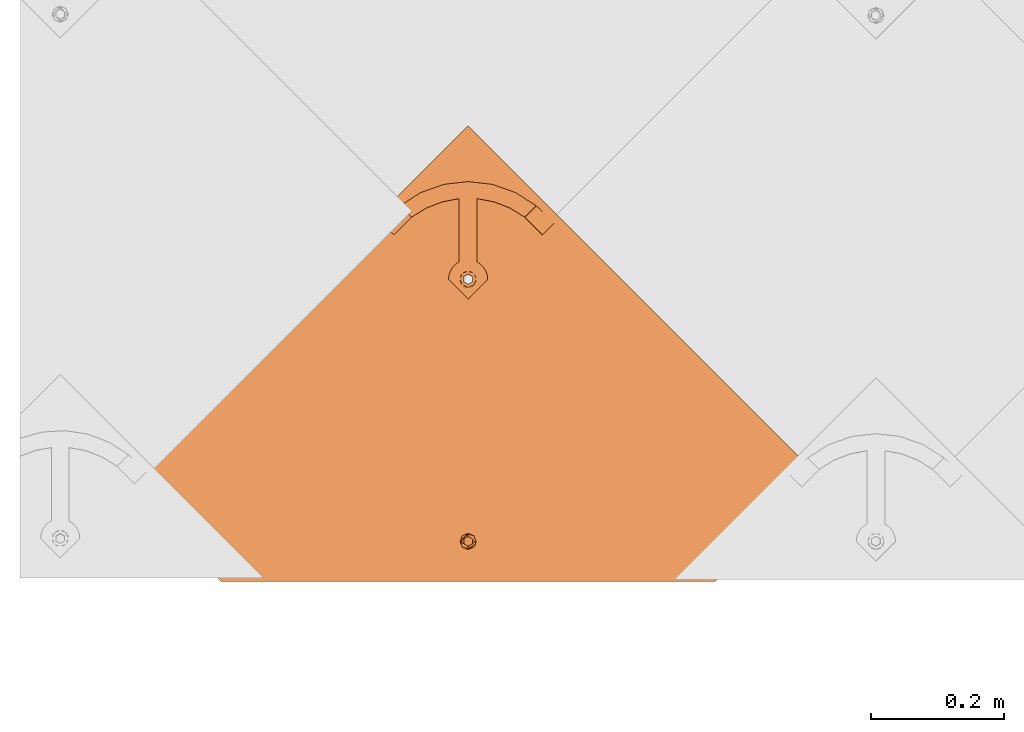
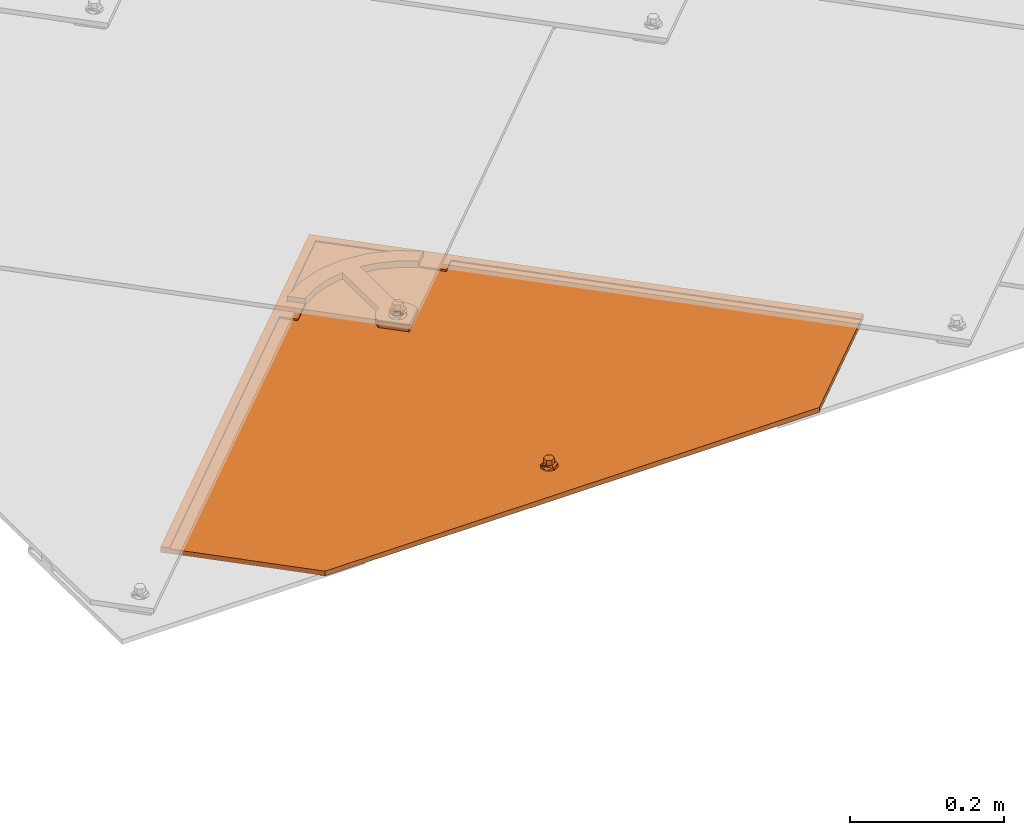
# One storey, part 69 of 133: 1 proxy.
"""IFC2X3 building model written with IfcOpenShell, lengths in millimetres."""

from ifc_helpers import new_model, entity, si_unit, converted_unit, derived_unit, direction, frame, origin, place, context, subcontext, project, spatial, faceted_brep, source, transform, mapped, material, material_list, type_object, type_shapes, element, save


model = new_model("IFC2X3")

# Units and contexts
model_context = context("Model", 3, precision=0.01, world=origin(), true_north=direction((6.12303176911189e-17, 1.0)))
body_context = subcontext(model_context, "Body", "Model", "MODEL_VIEW")
ifc_project = project(units=[si_unit("LENGTHUNIT", "METRE", prefix="MILLI"), si_unit("AREAUNIT", "SQUARE_METRE"), si_unit("VOLUMEUNIT", "CUBIC_METRE"), converted_unit("PLANEANGLEUNIT", "DEGREE", entity("IfcRatioMeasure", 0.0174532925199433), si_unit("PLANEANGLEUNIT", "RADIAN"), dimensions=[0, 0, 0, 0, 0, 0, 0]), si_unit("MASSUNIT", "GRAM", prefix="KILO"), derived_unit("MASSDENSITYUNIT", [(si_unit("MASSUNIT", "GRAM", prefix="KILO"), 1), (si_unit("LENGTHUNIT", "METRE"), -3)]), si_unit("TIMEUNIT", "SECOND"), si_unit("FREQUENCYUNIT", "HERTZ"), si_unit("THERMODYNAMICTEMPERATUREUNIT", "DEGREE_CELSIUS"), derived_unit("THERMALTRANSMITTANCEUNIT", [(si_unit("MASSUNIT", "GRAM", prefix="KILO"), 1), (si_unit("THERMODYNAMICTEMPERATUREUNIT", "KELVIN"), -1), (si_unit("TIMEUNIT", "SECOND"), -3)]), derived_unit("VOLUMETRICFLOWRATEUNIT", [(si_unit("LENGTHUNIT", "METRE"), 3), (si_unit("TIMEUNIT", "SECOND"), -1)]), si_unit("ELECTRICCURRENTUNIT", "AMPERE"), si_unit("ELECTRICVOLTAGEUNIT", "VOLT"), si_unit("POWERUNIT", "WATT"), si_unit("FORCEUNIT", "NEWTON", prefix="KILO"), si_unit("ILLUMINANCEUNIT", "LUX"), si_unit("LUMINOUSFLUXUNIT", "LUMEN"), si_unit("LUMINOUSINTENSITYUNIT", "CANDELA"), derived_unit("USERDEFINED", [(si_unit("MASSUNIT", "GRAM", prefix="KILO"), -1), (si_unit("LENGTHUNIT", "METRE"), -2), (si_unit("TIMEUNIT", "SECOND"), 3), (si_unit("LUMINOUSFLUXUNIT", "LUMEN"), 1)]), derived_unit("LINEARVELOCITYUNIT", [(si_unit("LENGTHUNIT", "METRE"), 1), (si_unit("TIMEUNIT", "SECOND"), -1)]), si_unit("PRESSUREUNIT", "PASCAL"), derived_unit("USERDEFINED", [(si_unit("LENGTHUNIT", "METRE"), -2), (si_unit("MASSUNIT", "GRAM", prefix="KILO"), 1), (si_unit("TIMEUNIT", "SECOND"), -2)])], contexts=[model_context])

# Site, building, storey
site_placement = place(None, origin())
site = spatial("IfcSite", under=ifc_project, at=site_placement, Name="Default", CompositionType="ELEMENT")
building_placement = place(site_placement, origin())
building = spatial("IfcBuilding", under=site, at=building_placement, CompositionType="ELEMENT")
storey_placement = place(building_placement, origin())
storey = spatial("IfcBuildingStorey", under=building, at=storey_placement, Name="Level 1", CompositionType="ELEMENT", Elevation=0.0)

# Proxy
ifc_material_1 = material(Name="Rubber - Sunstyle - Black")
ifc_material_2 = material(Name="Glass - Sunstyle - Tainted Black")
ifc_material_list_1 = material_list([ifc_material_1, ifc_material_2])
ifc_material_list_2 = material_list([ifc_material_1, ifc_material_2])
building_element_proxy_type = type_object("IfcBuildingElementProxyType", Name="Shingle Bottom - Black", PredefinedType="NOTDEFINED", material=ifc_material_list_2)
shared_shape = source(origin(), body_context, "Body", "Brep", [
    faceted_brep([(0.0, -1.79273515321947, -4.01619789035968), (-5.7742028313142, -5.12600528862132, -3.96037390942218), (-5.77420283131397, -4.75769619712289, 18.0314954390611), (0.0, -1.42442606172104, 17.9756714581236), (-5.77420283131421, -11.792545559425, -3.84872594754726), (-5.77420283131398, -11.4242364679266, 18.143143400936), (0.0, -15.1258156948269, -3.79290196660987), (0.0, -14.7575066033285, 18.1989673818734), (5.77420283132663, -11.7925455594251, -3.84872594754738), (5.77420283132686, -11.4242364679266, 18.1431434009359), (5.77420283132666, -5.12600528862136, -3.96037390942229), (5.77420283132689, -4.75769619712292, 18.031495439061), (-8.60370416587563, -16.6934641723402, 18.2313898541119), (0.0, -20.2567354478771, 18.2910657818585), (-12.1674751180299, -8.09096633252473, 18.0873194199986), (-8.60370416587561, 0.511531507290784, 17.9432489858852), (0.0, 4.07480278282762, 17.8835730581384), (8.60370416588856, 0.511531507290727, 17.9432489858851), (12.1674751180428, -8.09096633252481, 18.0873194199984), (8.60370416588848, -16.6934641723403, 18.2313898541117), (-11.4302228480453, -6.71737066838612, 20.4858706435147), (-9.77051349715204, -8.02009729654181, 22.3189355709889), (0.0, -0.706876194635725, 22.9603444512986), (0.0, 0.533621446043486, 22.3799978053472), (0.0, 2.69117229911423, 21.3706227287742), (-6.32324569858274, -4.35709193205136, 23.021476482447), (-6.32324569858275, -11.6575234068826, 23.1437405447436), (0.0, -18.7571148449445, 21.7298281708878), (0.0, -15.3077391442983, 23.2048725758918), (10.9851748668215, -11.808022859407, 20.3827540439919), (10.123850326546, -8.02413622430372, 22.0777687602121), (6.32324569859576, -4.3570919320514, 23.0214764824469), (6.32324569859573, -11.6575234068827, 23.1437405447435), (-6.32324569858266, -11.5234949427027, 31.146628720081), (0.0, -15.1737106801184, 31.2077607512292), (0.0, -7.8732792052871, 31.0854966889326), (-6.32324569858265, -4.22306346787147, 31.0243646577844), (6.32324569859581, -11.5234949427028, 31.1466287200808), (6.32324569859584, -4.22306346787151, 31.0243646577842), (0.0, -0.57284773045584, 30.963232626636), (0.0, -8.45927542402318, -3.90454992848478)], [[[0, 1, 2, 3]], [[1, 4, 5, 2]], [[4, 6, 7, 5]], [[6, 8, 9, 7]], [[8, 10, 11, 9]], [[10, 0, 3, 11]], [[12, 7, 13]], [[7, 12, 5]], [[14, 5, 12]], [[5, 14, 2]], [[15, 2, 14]], [[3, 2, 15]], [[15, 16, 3]], [[16, 17, 3]], [[11, 3, 17]], [[11, 17, 18]], [[9, 11, 18]], [[18, 19, 9]], [[7, 9, 19]], [[19, 13, 7]], [[15, 20, 16]], [[21, 22, 23, 24]], [[22, 21, 25]], [[20, 14, 12]], [[15, 14, 20]], [[25, 21, 26]], [[20, 24, 16]], [[12, 13, 27]], [[12, 27, 20]], [[21, 28, 26]], [[21, 27, 28]], [[20, 21, 24]], [[20, 27, 21]], [[19, 29, 13]], [[30, 23, 31]], [[30, 28, 27]], [[24, 23, 30]], [[29, 27, 13]], [[19, 18, 29]], [[29, 30, 27]], [[29, 17, 24]], [[24, 17, 16]], [[31, 32, 30]], [[23, 22, 31]], [[28, 30, 32]], [[29, 24, 30]], [[29, 18, 17]], [[33, 34, 35]], [[35, 36, 33]], [[34, 37, 35]], [[38, 35, 37]], [[35, 38, 39]], [[35, 39, 36]], [[40, 6, 4]], [[4, 1, 40]], [[1, 0, 40]], [[40, 8, 6]], [[0, 10, 40]], [[8, 40, 10]], [[22, 25, 36, 39]], [[25, 26, 33, 36]], [[26, 28, 34, 33]], [[28, 32, 37, 34]], [[32, 31, 38, 37]], [[31, 22, 39, 38]]]),
    faceted_brep([(0.0, 372.824876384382, 20.3195200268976), (0.0, 377.324245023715, 20.2441667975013), (-8.60370416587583, 376.388147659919, 20.2598440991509), (8.60370416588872, 376.388147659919, 20.2598440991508), (6.64022859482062, 381.157445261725, 20.1799702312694), (12.1674751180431, 384.990645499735, 20.1157736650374), (6.64022859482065, 388.823845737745, 20.0515770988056), (8.6037041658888, 393.59314333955, 19.9717032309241), (0.0, 392.657045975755, 19.9873805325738), (0.0, 397.156414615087, 19.9120273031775), (-8.60370416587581, 393.59314333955, 19.9717032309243), (-6.64022859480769, 388.823845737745, 20.0515770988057), (-12.1674751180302, 384.990645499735, 20.1157736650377), (-6.6402285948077, 381.157445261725, 20.1799702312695), (-6.6402282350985, 388.555922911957, 4.05382046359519), (0.0, 392.389122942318, 3.98962390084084), (-6.64022823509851, 380.889522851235, 4.18221358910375), (0.0, 377.056322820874, 4.24641015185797), (6.64022823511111, 380.889522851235, 4.18221358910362), (6.64022823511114, 388.555922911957, 4.05382046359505), (-8.603704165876, 376.12022504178, 4.26208746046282), (0.0, 372.556953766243, 4.32176338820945), (-12.1674751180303, 384.722722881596, 4.11801702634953), (-8.60370416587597, 393.325220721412, 3.97394659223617), (0.0, 396.888491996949, 3.91427066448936), (8.60370416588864, 393.325220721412, 3.97394659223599), (12.1674751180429, 384.722722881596, 4.11801702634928), (8.60370416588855, 376.12022504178, 4.26208746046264)], [[[0, 1, 2]], [[1, 0, 3]], [[3, 4, 1]], [[4, 3, 5]], [[6, 4, 5]], [[5, 7, 6]], [[7, 8, 6]], [[8, 7, 9]], [[8, 9, 10]], [[10, 11, 8]], [[12, 11, 10]], [[2, 13, 12]], [[12, 13, 11]], [[13, 2, 1]], [[8, 11, 14, 15]], [[11, 13, 16, 14]], [[13, 1, 17, 16]], [[1, 4, 18, 17]], [[4, 6, 19, 18]], [[6, 8, 15, 19]], [[20, 17, 21]], [[17, 20, 16]], [[22, 16, 20]], [[14, 16, 22]], [[23, 14, 22]], [[15, 14, 23]], [[23, 24, 15]], [[24, 25, 15]], [[19, 15, 25]], [[19, 25, 26]], [[26, 18, 19]], [[26, 27, 18]], [[17, 18, 27]], [[27, 21, 17]], [[24, 23, 10, 9]], [[10, 23, 22, 12]], [[20, 21, 0, 2]], [[20, 2, 12, 22]], [[21, 27, 3, 0]], [[3, 27, 26, 5]], [[25, 24, 9, 7]], [[25, 7, 5, 26]]]),
    faceted_brep([(518.247351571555, 79.9143812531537, 14.965257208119), (526.732038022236, 88.3990677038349, 14.8231598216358), (526.732038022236, 88.4241854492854, 16.3229495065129), (518.247351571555, 79.9394989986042, 16.4650468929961), (0.000322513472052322, 598.016093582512, 6.28834266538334), (-518.246706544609, 79.9143812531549, 14.9652572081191), (-526.73139299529, 88.3990677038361, 14.8231598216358), (0.000322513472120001, 614.983087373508, 6.00418773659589), (0.000322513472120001, 615.008205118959, 7.50397742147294), (-526.731392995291, 88.4241854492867, 16.3229495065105), (-518.246706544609, 79.9394989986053, 16.465046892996), (0.000322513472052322, 598.041211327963, 7.78813235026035)], [[[0, 1, 2, 3]], [[1, 0, 4, 5, 6, 7]], [[2, 1, 7, 8]], [[3, 2, 8, 9, 10, 11]], [[0, 3, 11, 4]], [[5, 10, 9, 6]], [[8, 7, 6, 9]], [[4, 11, 10, 5]]]),
    faceted_brep([(0.00032251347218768, 614.983087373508, 6.00418773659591), (-2.87802047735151, 396.187349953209, 9.66847193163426), (0.227808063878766, 396.596182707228, 9.6616250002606), (-5.77219193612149, 394.988712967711, 9.68854611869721), (3.3336366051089, 396.187349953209, 9.66847193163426), (6.22780806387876, 394.988712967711, 9.6885461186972), (8.71308943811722, 393.081956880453, 9.72047953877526), (10.620112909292, 390.59702396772, 9.76209598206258), (-8.25747331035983, 393.081956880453, 9.72047953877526), (-10.1644967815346, 390.59702396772, 9.76209598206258), (-11.3633018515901, 387.703258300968, 9.81055935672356), (-526.731392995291, 88.3990677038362, 14.8231598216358), (11.8189179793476, 387.703258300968, 9.81055935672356), (526.732038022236, 88.3990677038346, 14.8231598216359), (-11.7721919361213, 384.597865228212, 9.86256696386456), (-11.3633018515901, 381.492472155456, 9.91457457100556), (-10.1644967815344, 378.598706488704, 9.96303794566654), (-370.355016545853, -67.9334607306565, 17.4413406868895), (-8.25747331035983, 376.113773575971, 10.0046543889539), (-5.65685424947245, -2.29422365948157, 16.3420467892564), (-6.92820323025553, -3.95084560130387, 16.3697910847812), (-7.72740661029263, -5.88002271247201, 16.4021000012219), (-8.0, -7.95028476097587, 16.4367717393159), (-7.72740661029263, -10.0205468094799, 16.4714434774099), (-6.9282032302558, -11.9497239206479, 16.5037523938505), (-5.65685424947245, -13.6063458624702, 16.5314966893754), (-4.0, -14.8775165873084, 16.5527856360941), (-2.07055236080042, -15.676607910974, 16.5661684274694), (0.0, -15.9491630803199, 16.5707330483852), (370.355661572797, -67.9334607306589, 17.4413406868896), (10.620112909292, 378.598706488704, 9.96303794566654), (8.71308943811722, 376.11377357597, 10.0046543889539), (5.65685424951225, -2.29422365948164, 16.3420467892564), (6.92820323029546, -3.9508456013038, 16.3697910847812), (7.72740661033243, -5.88002271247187, 16.4021000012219), (8.0, -7.9502847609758, 16.4367717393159), (7.72740661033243, -10.0205468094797, 16.4714434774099), (6.92820323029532, -11.9497239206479, 16.5037523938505), (5.65685424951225, -13.6063458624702, 16.5314966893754), (4.0, -14.8775165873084, 16.5527856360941), (2.07055236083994, -15.676607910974, 16.5661684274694), (-5.77219193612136, 374.207017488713, 10.0365878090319), (-4.0, -1.02305293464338, 16.3207578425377), (-2.87802047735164, 373.008380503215, 10.0566619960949), (-2.07055236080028, -0.223961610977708, 16.3073750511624), (0.227808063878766, 372.599547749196, 10.0635089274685), (0.0, 0.0485935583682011, 16.3028104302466), (2.07055236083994, -0.223961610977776, 16.3073750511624), (3.3336366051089, 373.008380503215, 10.0566619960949), (4.0, -1.02305293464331, 16.3207578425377), (6.22780806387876, 374.207017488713, 10.0365878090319), (12.2278080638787, 384.597865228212, 9.86256696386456), (11.8189179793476, 381.492472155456, 9.91457457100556), (-370.355016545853, -68.059049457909, 9.94239226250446), (-6.92820323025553, -4.07643432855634, 8.87084266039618), (-7.72740661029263, -6.00561143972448, 8.90315157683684), (-8.0, -8.07587348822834, 8.93782331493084), (-7.72740661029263, -10.1461355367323, 8.97249505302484), (-6.9282032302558, -12.0753126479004, 9.00480396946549), (-5.65685424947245, -13.7319345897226, 9.03254826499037), (-5.65685424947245, -2.41981238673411, 8.8430983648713), (-8.25747331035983, 375.988184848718, 2.50570596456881), (-4.0, -15.0031053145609, 9.05383721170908), (-2.07055236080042, -15.8021966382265, 9.06722000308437), (0.0, -16.0747518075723, 9.07178462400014), (370.355661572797, -68.0590494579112, 9.9423922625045), (-10.1644967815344, 378.473117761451, 2.46408952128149), (-526.731392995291, 88.2734789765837, 7.32421139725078), (-11.3633018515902, 381.366883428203, 2.41562614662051), (-11.7721919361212, 384.472276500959, 2.36361853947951), (-11.3633018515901, 387.577669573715, 2.3116109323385), (0.00032251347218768, 614.857498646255, -1.49476068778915), (-10.1644967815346, 390.471435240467, 2.26314755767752), (-8.25747331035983, 392.956368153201, 2.22153111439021), (-5.77219193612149, 394.863124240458, 2.18959769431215), (-2.87802047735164, 396.061761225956, 2.16952350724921), (0.227808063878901, 396.470593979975, 2.16267657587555), (3.3336366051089, 396.061761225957, 2.1695235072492), (6.22780806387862, 394.863124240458, 2.18959769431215), (8.71308943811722, 392.956368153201, 2.2215311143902), (10.620112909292, 390.471435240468, 2.26314755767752), (11.8189179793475, 387.577669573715, 2.31161093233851), (526.732038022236, 88.2734789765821, 7.32421139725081), (12.2278080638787, 384.472276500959, 2.3636185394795), (10.620112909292, 378.473117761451, 2.46408952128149), (11.8189179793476, 381.366883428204, 2.41562614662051), (-5.77219193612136, 374.08142876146, 2.53763938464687), (-4.0, -1.14864166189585, 8.8218094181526), (-2.87802047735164, 372.882791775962, 2.55771357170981), (-2.07055236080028, -0.349550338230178, 8.8084266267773), (0.227808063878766, 372.473959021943, 2.56456050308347), (0.0, -0.0769951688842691, 8.80386200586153), (2.07055236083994, -0.349550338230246, 8.8084266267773), (3.3336366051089, 372.882791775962, 2.55771357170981), (4.0, -1.14864166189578, 8.8218094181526), (6.22780806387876, 374.081428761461, 2.53763938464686), (5.65685424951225, -2.41981238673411, 8.8430983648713), (8.71308943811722, 375.988184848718, 2.50570596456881), (6.92820323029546, -4.07643432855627, 8.87084266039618), (7.72740661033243, -6.00561143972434, 8.90315157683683), (8.0, -8.07587348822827, 8.93782331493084), (7.72740661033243, -10.1461355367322, 8.97249505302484), (6.92820323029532, -12.0753126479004, 9.00480396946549), (5.65685424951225, -13.7319345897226, 9.03254826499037), (4.0, -15.0031053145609, 9.05383721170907), (2.07055236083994, -15.8021966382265, 9.06722000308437)], [[[0, 1, 2]], [[1, 0, 3]], [[0, 2, 4]], [[4, 5, 0]], [[5, 6, 0]], [[0, 6, 7]], [[8, 3, 0]], [[9, 8, 0]], [[9, 0, 10]], [[10, 0, 11]], [[12, 0, 7]], [[12, 13, 0]], [[11, 14, 10]], [[14, 11, 15]], [[16, 15, 11]], [[11, 17, 16]], [[16, 17, 18]], [[19, 18, 17]], [[19, 17, 20]], [[20, 17, 21]], [[22, 21, 17]], [[22, 17, 23]], [[24, 23, 17]], [[17, 25, 24]], [[26, 25, 17]], [[27, 26, 17]], [[17, 28, 27]], [[28, 17, 29]], [[29, 13, 30]], [[29, 30, 31]], [[29, 31, 32]], [[32, 33, 29]], [[33, 34, 29]], [[35, 29, 34]], [[29, 35, 36]], [[36, 37, 29]], [[29, 37, 38]], [[38, 39, 29]], [[40, 28, 29]], [[39, 40, 29]], [[41, 18, 19]], [[42, 41, 19]], [[42, 43, 41]], [[44, 43, 42]], [[44, 45, 43]], [[46, 45, 44]], [[47, 45, 46]], [[48, 45, 47]], [[49, 48, 47]], [[49, 50, 48]], [[32, 50, 49]], [[32, 31, 50]], [[12, 51, 13]], [[52, 13, 51]], [[13, 52, 30]], [[53, 54, 55]], [[53, 55, 56]], [[56, 57, 53]], [[57, 58, 53]], [[53, 58, 59]], [[60, 54, 53]], [[61, 60, 53]], [[59, 62, 53]], [[62, 63, 53]], [[63, 64, 53]], [[53, 64, 65]], [[66, 61, 53]], [[66, 53, 67]], [[68, 66, 67]], [[69, 68, 67]], [[69, 67, 70]], [[67, 71, 70]], [[72, 70, 71]], [[73, 72, 71]], [[71, 74, 73]], [[74, 71, 75]], [[75, 71, 76]], [[77, 76, 71]], [[77, 71, 78]], [[79, 78, 71]], [[71, 80, 79]], [[80, 71, 81]], [[71, 82, 81]], [[83, 81, 82]], [[84, 82, 65]], [[85, 82, 84]], [[82, 85, 83]], [[86, 60, 61]], [[86, 87, 60]], [[88, 87, 86]], [[89, 87, 88]], [[90, 89, 88]], [[90, 91, 89]], [[92, 91, 90]], [[92, 90, 93]], [[94, 92, 93]], [[93, 95, 94]], [[94, 95, 96]], [[97, 96, 95]], [[96, 97, 65]], [[84, 65, 97]], [[98, 96, 65]], [[99, 98, 65]], [[99, 65, 100]], [[101, 100, 65]], [[102, 101, 65]], [[103, 102, 65]], [[104, 103, 65]], [[105, 104, 65]], [[65, 64, 105]], [[11, 0, 71, 67]], [[17, 11, 67, 53]], [[13, 29, 65, 82]], [[0, 13, 82, 71]], [[22, 56, 55, 21]], [[21, 55, 54, 20]], [[42, 19, 60, 87]], [[60, 19, 20, 54]], [[44, 42, 87, 89]], [[44, 89, 91, 46]], [[46, 91, 92, 47]], [[47, 92, 94, 49]], [[33, 32, 96, 98]], [[96, 32, 49, 94]], [[34, 33, 98, 99]], [[34, 99, 100, 35]], [[35, 100, 101, 36]], [[36, 101, 102, 37]], [[39, 38, 103, 104]], [[103, 38, 37, 102]], [[40, 39, 104, 105]], [[40, 105, 64, 28]], [[28, 64, 63, 27]], [[27, 63, 62, 26]], [[24, 25, 59, 58]], [[59, 25, 26, 62]], [[23, 24, 58, 57]], [[23, 57, 56, 22]], [[14, 69, 70, 10]], [[10, 70, 72, 9]], [[3, 8, 73, 74]], [[73, 8, 9, 72]], [[1, 3, 74, 75]], [[1, 75, 76, 2]], [[2, 76, 77, 4]], [[4, 77, 78, 5]], [[7, 6, 79, 80]], [[79, 6, 5, 78]], [[12, 7, 80, 81]], [[12, 81, 83, 51]], [[51, 83, 85, 52]], [[52, 85, 84, 30]], [[50, 31, 97, 95]], [[97, 31, 30, 84]], [[48, 50, 95, 93]], [[48, 93, 90, 45]], [[45, 90, 88, 43]], [[43, 88, 86, 41]], [[16, 18, 61, 66]], [[41, 86, 61, 18]], [[68, 15, 16, 66]], [[15, 68, 69, 14]], [[29, 17, 53, 65]]]),
    faceted_brep([(-111.269043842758, 451.472531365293, 11.2429332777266), (-84.9443960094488, 477.793488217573, 10.8021227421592), (-102.027571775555, 494.874268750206, 10.5160621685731), (-108.279973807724, 489.512620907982, 10.6058564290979), (-114.2509690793, 483.839345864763, 10.7008696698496), (-128.946713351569, 469.147722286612, 10.9469178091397), (128.946713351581, 469.147722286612, 10.9469178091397), (114.250969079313, 483.839345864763, 10.7008696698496), (108.279973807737, 489.512620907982, 10.6058564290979), (102.027571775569, 494.874268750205, 10.5160621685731), (84.9431983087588, 477.794685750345, 10.802102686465), (111.269043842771, 451.472531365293, 11.2429332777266), (-8.48528137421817, 393.302959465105, 19.7181805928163), (-18.7041061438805, 407.484939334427, 19.4806677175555), (-23.2046504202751, 402.851933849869, 19.5582590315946), (-10.3923048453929, 390.818026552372, 19.7597970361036), (-6.0, 395.209715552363, 19.6862471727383), (-13.2999999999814, 411.02298750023, 19.4214142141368), (-3.10582854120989, 396.408352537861, 19.6661729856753), (0.0, 396.81718529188, 19.6593260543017), (13.3000000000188, 411.022987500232, 19.4214142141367), (3.10582854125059, 396.408352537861, 19.6661729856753), (6.0, 395.209715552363, 19.6862471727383), (18.7041061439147, 407.484939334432, 19.4806677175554), (8.48528137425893, 393.302959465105, 19.7181805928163), (23.2046504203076, 402.85193384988, 19.5582590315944), (10.3923048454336, 390.818026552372, 19.7597970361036), (26.5842195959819, 397.347783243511, 19.6504398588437), (11.5911099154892, 387.92426088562, 19.8082604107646), (28.6795527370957, 391.238383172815, 19.752757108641), (12.0, 384.818867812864, 19.8602680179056), (29.3894280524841, 384.818867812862, 19.8602680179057), (11.5911099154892, 381.713474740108, 19.9122756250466), (10.3923048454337, 378.819709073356, 19.9607389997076), (8.48528137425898, 376.334776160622, 20.0023554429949), (0.0, 355.433560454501, 20.3523987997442), (6.0, 374.428020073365, 20.034288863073), (3.10582854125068, 373.229383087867, 20.0543630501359), (0.0, 372.820550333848, 20.0612099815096), (-3.10582854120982, 373.229383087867, 20.0543630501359), (-6.0, 374.428020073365, 20.034288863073), (-8.48528137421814, 376.334776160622, 20.0023554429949), (-29.3894280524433, 384.818867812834, 19.8602680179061), (-10.3923048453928, 378.819709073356, 19.9607389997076), (-11.5911099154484, 381.713474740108, 19.9122756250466), (-12.0, 384.818867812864, 19.8602680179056), (-28.67955273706, 391.238383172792, 19.7527571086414), (-11.5911099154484, 387.92426088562, 19.8082604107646), (-26.5842195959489, 397.347783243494, 19.650439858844), (-13.2999999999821, 505.810987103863, 17.833951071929), (13.3000000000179, 505.810987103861, 17.833951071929), (0.0, 531.282600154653, 17.4073649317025), (36.4908407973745, 527.108634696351, 17.4772684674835), (38.7697427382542, 500.996106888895, 17.9145883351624), (71.096085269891, 514.802420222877, 17.6833669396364), (62.9243331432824, 491.592473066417, 18.0720758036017), (102.027571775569, 494.999857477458, 18.0150105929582), (84.9443960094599, 477.919076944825, 18.3010711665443), (-36.4908407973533, 527.108634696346, 17.4772684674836), (-38.7697427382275, 500.996106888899, 17.9145883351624), (-71.0960852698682, 514.802420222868, 17.6833669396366), (-62.9243331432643, 491.592473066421, 18.0720758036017), (-102.027571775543, 494.999857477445, 18.0150105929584), (-84.9443960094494, 477.919076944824, 18.3010711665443), (0.0, 355.266108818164, 10.3538009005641), (0.0, 372.653098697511, 10.0626120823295), (3.10582854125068, 373.06193145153, 10.0557651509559), (-3.10582854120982, 373.06193145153, 10.0557651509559), (6.0, 374.260568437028, 10.0356909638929), (8.48528137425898, 376.167324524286, 10.0037575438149), (29.3894280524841, 384.651416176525, 9.86167011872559), (-6.0, 374.260568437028, 10.0356909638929), (-8.48528137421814, 376.167324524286, 10.0037575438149), (-29.3894280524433, 384.651416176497, 9.86167011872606), (-10.3923048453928, 378.652257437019, 9.96214110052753), (-11.5911099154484, 381.546023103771, 9.91367772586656), (-12.0, 384.651416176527, 9.86167011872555), (-28.67955273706, 391.070931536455, 9.75415920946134), (-11.5911099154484, 387.756809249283, 9.80966251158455), (-26.5842195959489, 397.180331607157, 9.65184195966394), (-10.3923048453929, 390.650574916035, 9.76119913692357), (-23.2046504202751, 402.684482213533, 9.5596611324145), (-8.48528137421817, 393.135507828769, 9.71958269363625), (-18.7041061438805, 407.31748769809, 9.48206981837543), (-6.0, 395.042263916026, 9.6876492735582), (-13.2999999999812, 410.855535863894, 9.4228163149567), (-3.10582854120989, 396.240900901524, 9.66757508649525), (0.0, 396.649733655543, 9.66072815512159), (13.3000000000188, 410.855535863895, 9.42281631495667), (-13.2999999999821, 505.643535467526, 7.83535317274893), (13.3000000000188, 505.643535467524, 7.83535317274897), (0.0, 531.115148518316, 7.4087670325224), (-36.4908407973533, 526.94118306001, 7.47867056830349), (-38.7697427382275, 500.828655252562, 7.91599043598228), (-71.0960852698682, 514.634968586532, 7.68476904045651), (-62.9243331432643, 491.425021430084, 8.07347790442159), (-102.027571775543, 494.832405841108, 8.01641269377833), (-84.9431983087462, 477.752822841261, 8.30245321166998), (-108.279973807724, 489.470757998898, 8.10620695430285), (-114.2509690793, 483.79748295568, 8.2012201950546), (-111.269043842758, 451.430668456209, 8.74328380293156), (-128.946713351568, 469.105859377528, 8.44726833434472), (36.4908407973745, 526.941183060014, 7.47867056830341), (38.7697427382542, 500.828655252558, 7.91599043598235), (71.096085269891, 514.634968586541, 7.68476904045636), (62.9243331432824, 491.425021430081, 8.07347790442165), (102.027571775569, 494.832405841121, 8.01641269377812), (84.9443960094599, 477.751625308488, 8.30247326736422), (108.279973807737, 489.470757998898, 8.10620695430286), (114.250969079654, 483.797482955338, 8.20122019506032), (111.269043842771, 451.430668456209, 8.74328380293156), (128.946713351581, 469.105859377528, 8.44726833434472), (3.10582854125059, 396.240900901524, 9.66757508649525), (6.0, 395.042263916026, 9.6876492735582), (18.7041061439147, 407.317487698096, 9.48206981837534), (8.48528137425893, 393.135507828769, 9.71958269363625), (23.2046504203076, 402.684482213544, 9.55966113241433), (10.3923048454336, 390.650574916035, 9.76119913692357), (26.5842195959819, 397.180331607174, 9.65184195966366), (11.5911099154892, 387.756809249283, 9.80966251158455), (28.6795527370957, 391.070931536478, 9.75415920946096), (12.0, 384.651416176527, 9.86167011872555), (11.5911099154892, 381.546023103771, 9.91367772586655), (10.3923048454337, 378.652257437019, 9.96214110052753)], [[[0, 1, 2, 3, 4, 5]], [[6, 7, 8, 9, 10, 11]], [[12, 13, 14]], [[15, 12, 14]], [[16, 13, 12]], [[13, 16, 17]], [[17, 16, 18]], [[18, 19, 17]], [[20, 17, 19]], [[19, 21, 20]], [[22, 20, 21]], [[22, 23, 20]], [[22, 24, 23]], [[25, 23, 24]], [[26, 25, 24]], [[25, 26, 27]], [[26, 28, 27]], [[29, 27, 28]], [[28, 30, 29]], [[31, 29, 30]], [[30, 32, 31]], [[32, 33, 31]], [[31, 33, 34]], [[34, 35, 31]], [[34, 36, 35]], [[37, 35, 36]], [[38, 35, 37]], [[35, 38, 39]], [[40, 35, 39]], [[40, 41, 35]], [[42, 35, 41]], [[43, 42, 41]], [[43, 44, 42]], [[44, 45, 42]], [[45, 46, 42]], [[46, 45, 47]], [[48, 46, 47]], [[47, 15, 48]], [[48, 15, 14]], [[20, 49, 17]], [[49, 20, 50]], [[51, 49, 50]], [[50, 52, 51]], [[53, 52, 50]], [[52, 53, 54]], [[55, 54, 53]], [[54, 55, 56]], [[55, 57, 56]], [[58, 49, 51]], [[49, 58, 59]], [[60, 59, 58]], [[60, 61, 59]], [[61, 60, 62]], [[61, 62, 63]], [[64, 65, 66]], [[65, 64, 67]], [[64, 66, 68]], [[68, 69, 64]], [[64, 69, 70]], [[71, 67, 64]], [[71, 64, 72]], [[72, 64, 73]], [[73, 74, 72]], [[74, 73, 75]], [[76, 75, 73]], [[77, 76, 73]], [[76, 77, 78]], [[78, 77, 79]], [[80, 78, 79]], [[81, 80, 79]], [[82, 80, 81]], [[81, 83, 82]], [[83, 84, 82]], [[84, 83, 85]], [[85, 86, 84]], [[87, 86, 85]], [[87, 85, 88]], [[88, 85, 89]], [[88, 89, 90]], [[89, 91, 90]], [[91, 89, 92]], [[93, 92, 89]], [[94, 92, 93]], [[93, 95, 94]], [[95, 96, 94]], [[97, 96, 95]], [[98, 96, 97]], [[99, 98, 97]], [[97, 100, 99]], [[101, 99, 100]], [[102, 90, 91]], [[90, 102, 103]], [[104, 103, 102]], [[103, 104, 105]], [[105, 104, 106]], [[107, 105, 106]], [[107, 106, 108]], [[109, 107, 108]], [[110, 107, 109]], [[111, 110, 109]], [[87, 88, 112]], [[113, 112, 88]], [[114, 113, 88]], [[115, 113, 114]], [[115, 114, 116]], [[116, 117, 115]], [[116, 118, 117]], [[117, 118, 119]], [[119, 118, 120]], [[121, 119, 120]], [[120, 70, 121]], [[122, 121, 70]], [[70, 69, 123]], [[123, 122, 70]], [[17, 49, 89, 85]], [[13, 17, 85, 83]], [[14, 13, 83, 81]], [[81, 79, 48, 14]], [[46, 48, 79, 77]], [[42, 46, 77, 73]], [[35, 42, 73, 64]], [[31, 35, 64, 70]], [[29, 31, 70, 120]], [[27, 29, 120, 118]], [[118, 116, 25, 27]], [[23, 25, 116, 114]], [[20, 23, 114, 88]], [[50, 20, 88, 90]], [[9, 106, 104, 54, 56]], [[52, 54, 104, 102]], [[51, 52, 102, 91]], [[58, 51, 91, 92]], [[94, 96, 2, 62, 60]], [[60, 58, 92, 94]], [[45, 76, 78, 47]], [[47, 78, 80, 15]], [[16, 12, 82, 84]], [[80, 82, 12, 15]], [[18, 16, 84, 86]], [[87, 19, 18, 86]], [[21, 112, 113, 22]], [[22, 113, 115, 24]], [[28, 26, 117, 119]], [[115, 117, 26, 24]], [[30, 28, 119, 121]], [[21, 19, 87, 112]], [[30, 121, 122, 32]], [[32, 122, 123, 33]], [[36, 34, 69, 68]], [[123, 69, 34, 33]], [[37, 36, 68, 66]], [[65, 38, 37, 66]], [[39, 67, 71, 40]], [[40, 71, 72, 41]], [[44, 43, 74, 75]], [[72, 74, 43, 41]], [[45, 44, 75, 76]], [[39, 38, 65, 67]], [[7, 6, 111, 109]], [[6, 11, 110, 111]], [[7, 109, 108, 8]], [[108, 106, 9, 8]], [[11, 10, 107, 110]], [[0, 5, 101, 100]], [[1, 0, 100, 97]], [[2, 96, 98, 3]], [[98, 99, 4, 3]], [[5, 4, 99, 101]], [[63, 62, 2, 1]], [[56, 57, 10]], [[10, 9, 56]], [[1, 95, 61, 63]], [[1, 97, 95]], [[93, 89, 49, 59]], [[95, 93, 59, 61]], [[90, 103, 53, 50]], [[103, 105, 55, 53]], [[10, 57, 55]], [[107, 10, 105]], [[55, 105, 10]]]),
])
type_shapes(building_element_proxy_type, [shared_shape])
proxy_placement = place(storey_placement, frame((-18375.6614881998, 14589.6224983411, 0.0)))
element("IfcBuildingElementProxy", 1, at=proxy_placement, inside=storey, type_object=building_element_proxy_type, material=ifc_material_list_1, Name="Roofing_Panels_SunStyle_Tile_Shingle-Bottom:Shingle Bottom - Black", ObjectType="Roofing_Panels_SunStyle_Tile_Shingle-Bottom:Shingle Bottom - Black", context=body_context, shape_type="MappedRepresentation", body=[
    mapped(shared_shape, transform((0.0, 0.0, 0.0), scale=1.0)),
])

save(model, "model.ifc")
